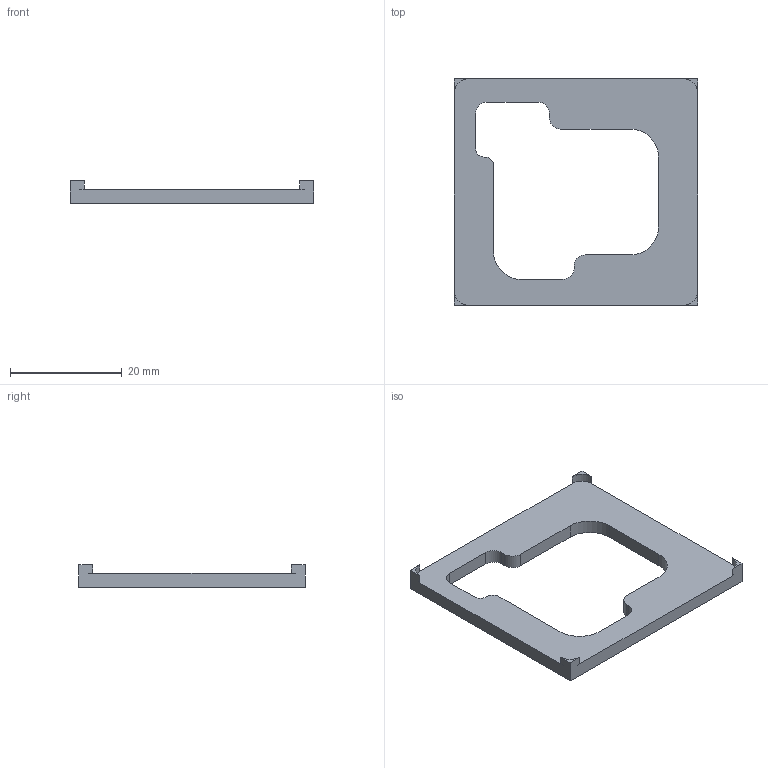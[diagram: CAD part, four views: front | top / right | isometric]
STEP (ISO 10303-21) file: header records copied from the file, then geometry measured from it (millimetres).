
FILE_DESCRIPTION(('Open CASCADE Model'),'2;1');
FILE_NAME('Open CASCADE Shape Model','2026-05-31T19:44:31',('Author'),( 'Open CASCADE'),'Open CASCADE STEP processor 7.6','Open CASCADE 7.6' ,'Unknown');
FILE_SCHEMA(('AP242_MANAGED_MODEL_BASED_3D_ENGINEERING_MIM_LF. {1 0 10303 442 1 1 4 }'));
Length unit declared in the file: millimetre
Products named in the file (1): Open CASCADE STEP translator 7.6 14
Bounding box: 43.5 x 40.5 x 4 mm (x, y, z)
Volume: 2438.6 mm3; surface area: 2710 mm2
Topology: 1 solids, 1 shells, 34 faces, 96 edges, 64 vertices
Faces by surface type: plane 20, cylinder 14
Entity records: 2400 total; most frequent: CARTESIAN_POINT 447, DIRECTION 376, LINE 232, VECTOR 232, ORIENTED_EDGE 192, PCURVE 192, DEFINITIONAL_REPRESENTATION 192, EDGE_CURVE 96
